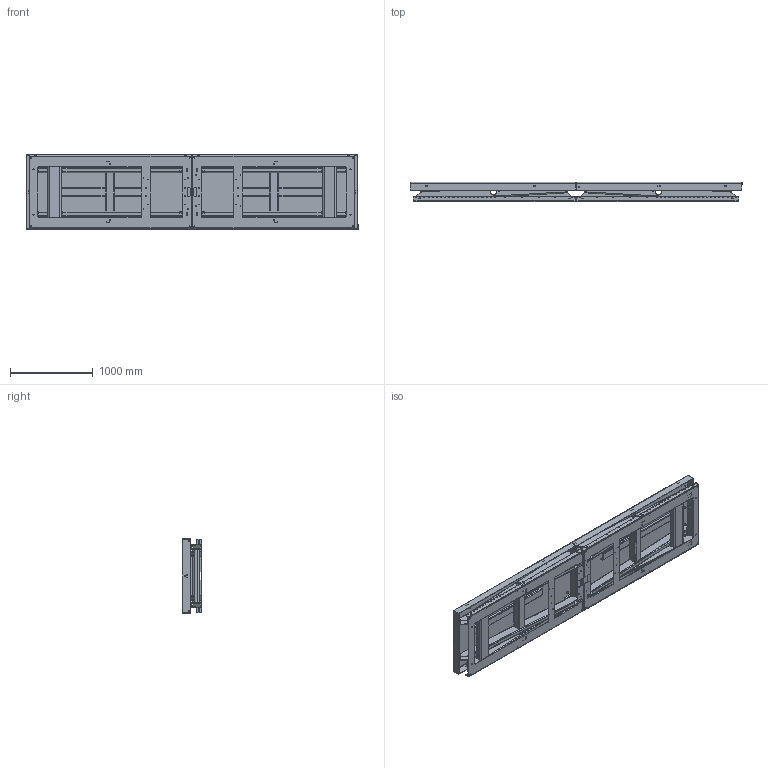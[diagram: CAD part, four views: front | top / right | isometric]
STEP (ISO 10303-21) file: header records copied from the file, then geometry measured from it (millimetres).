
FILE_DESCRIPTION(/* description */ ('TAH 4000'),/* implementation_level */ '2;1');
FILE_NAME(/* name */ 'C:\Autodesk_VaultWork\Ritningar\Exporterade modeller\TAH 4000 - (34395)\34395_Collapsed.stp',/* time_stamp */ '2020-06-10T15:50:10+02:00',/* author */ ('ANDMO'),/* organization */ (''),/* preprocessor_version */ 'ST-DEVELOPER v16.5',/* originating_system */ 'Autodesk Inventor 2017',/* authorisation */ '');
FILE_SCHEMA (('AUTOMOTIVE_DESIGN { 1 0 10303 214 3 1 1 }'));
Length unit declared in the file: millimetre
Products named in the file (28): 34395; 34396; 34231; 613202; 44870; 613203; 612693; 612693_1; 612695; 612697; ISO 4019 - 120x60x6 - 1892; 82092 - 649; 612694; 612696; ISO 4019 - 120x60x6 - 1892_1; ISO 4019 - 100x100x6 - 468; 614042; 614043; 45259; 614046; 614047; 614044; 614045; 41333-1175; 45387; 80131; 603235; 85955
Assembly tree (65 placements, depth 5):
  34395
    34396
      34231  x2
        613202
        45259
        44870
        613203
    612693
      612695
        612697  x2
          ISO 4019 - 120x60x6 - 1892
        82092 - 649
      612694
        612696  x2
          ISO 4019 - 120x60x6 - 1892_1
        ISO 4019 - 100x100x6 - 468
    612693_1
      612695
        612697  x2
          ISO 4019 - 120x60x6 - 1892
        82092 - 649
      612694
        612696  x2
          ISO 4019 - 120x60x6 - 1892_1
        ISO 4019 - 100x100x6 - 468
    614042
      614043
      614044
      614045
      41333-1175
      45259  x2
      85955  x3
      45387  x7
      80131  x4
    614046
      614047
      614044
      614045
      41333-1175
      85955  x3
      45387  x5
      80131  x4
      603235  x4
Bounding box: 4000 x 230 x 900 mm (x, y, z)
Volume: 73068799.8 mm3; surface area: 25157142.3 mm2
Topology: 64 solids, 64 shells, 3058 faces, 8510 edges, 5592 vertices
Faces by surface type: plane 1448, cylinder 1382, cone 176, torus 36, bspline 16
Full cylindrical faces by diameter (mm): 5.6 x8, 7 x16, 7.4 x24, 8 x8, 10 x4, 10.5 x8, 11.63 x8, 12.5 x12, 13 x8, 13.835 x30, 14.2 x32, 18.8 x12, 19 x6, 28.1 x6, 70 x8, 78 x8
Entity records: 42875 total; most frequent: CARTESIAN_POINT 7720, DIRECTION 7416, ORIENTED_EDGE 6990, EDGE_CURVE 3495, AXIS2_PLACEMENT_3D 2617, VERTEX_POINT 2343, LINE 2182, VECTOR 2182
